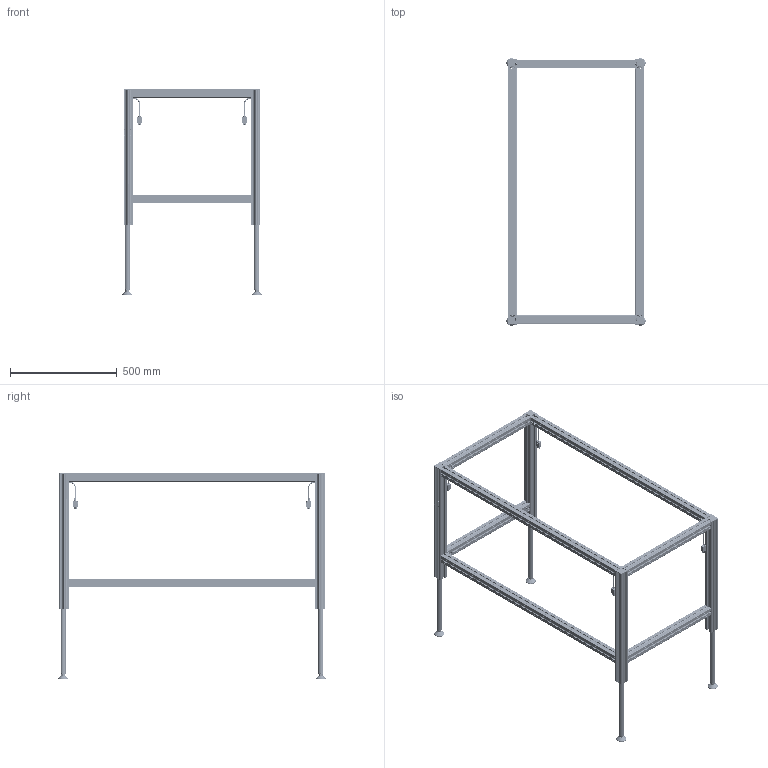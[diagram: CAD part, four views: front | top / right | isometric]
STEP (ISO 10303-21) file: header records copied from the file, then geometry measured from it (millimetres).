
FILE_DESCRIPTION(/* description */ ('Unknown'),/* implementation_level */ '2;1');
FILE_NAME(/* name */ 'Untergestell SQ.3 4330 1195 XX XX_00-Ausgefahren',/* time_stamp */ '2022-02-04T13:31:34+01:00',/* author */ ('Unknown'),/* organization */ ('Unknown'),/* preprocessor_version */ 'ST-DEVELOPER v18.1',/* originating_system */ 'Solid Edge',/* authorisation */ 'Unknown');
FILE_SCHEMA (('AUTOMOTIVE_DESIGN {1 0 10303 214 3 1 1}'));
Products named in the file (21): Untergestell SQ.3 4330 1195 XX XX; 907.02003_oa_0; 142.00014; 119.00500; 122.00005; 142.00020; 123.00110; 125.00051; 128.00040; Kabel Molex; 907.02003_oa_1; 115.00100; 119.00190; 142.00210; 113.00006; 113.00006-ohne Mutter; Mutter M10; 907.02003_oa_2; 907.02003_oa_3; 115.00103; 119.00193
Assembly tree (79 placements, depth 3):
  Untergestell SQ.3 4330 1195 XX XX
    907.02003_oa_0
      142.00014  x4
      119.00500
      122.00005
      142.00020  x4
      123.00110
      125.00051
      128.00040
      Kabel Molex
    907.02003_oa_1
      142.00014  x4
      119.00500
      122.00005
      142.00020  x4
      123.00110
      125.00051
      128.00040
      Kabel Molex
    115.00100  x4
      119.00190
      142.00210
    113.00006  x4
      113.00006-ohne Mutter
      Mutter M10
    907.02003_oa_2
      142.00014  x4
      119.00500
      122.00005
      142.00020  x4
      123.00110
      125.00051
      128.00040
      Kabel Molex
    907.02003_oa_3
      142.00014  x4
      119.00500
      122.00005
      142.00020  x4
      123.00110
      125.00051
      128.00040
      Kabel Molex
    115.00103  x3
      119.00193
      142.00210
Bounding box: 651 x 1251 x 963 mm (x, y, z)
Volume: 6443947.1 mm3; surface area: 4588501.1 mm2
Topology: 99 solids, 99 shells, 13892 faces, 39146 edges, 25572 vertices
Faces by surface type: plane 7616, cylinder 4786, bspline 700, cone 310, torus 306, sphere 174
Full cylindrical faces by diameter (mm): 2.5 x52, 3 x16, 4 x48, 5 x40, 6.647 x4, 7.8 x14, 8.376 x12, 9.5 x4, 10 x4, 11.3 x14, 11.5 x14, 12 x14, 12.2 x14, 13.5 x14, 15 x4, 17.3 x4, 18 x28, 18.1 x14, 19 x8, 20.8 x12, 21 x8, 25 x12, 29 x4, 30 x8, 35 x4, 39 x4, 47 x4
Entity records: 120083 total; most frequent: CARTESIAN_POINT 27187, ORIENTED_EDGE 19200, DIRECTION 17815, EDGE_CURVE 9600, VERTEX_POINT 6349, AXIS2_PLACEMENT_3D 5949, LINE 5917, VECTOR 5917
